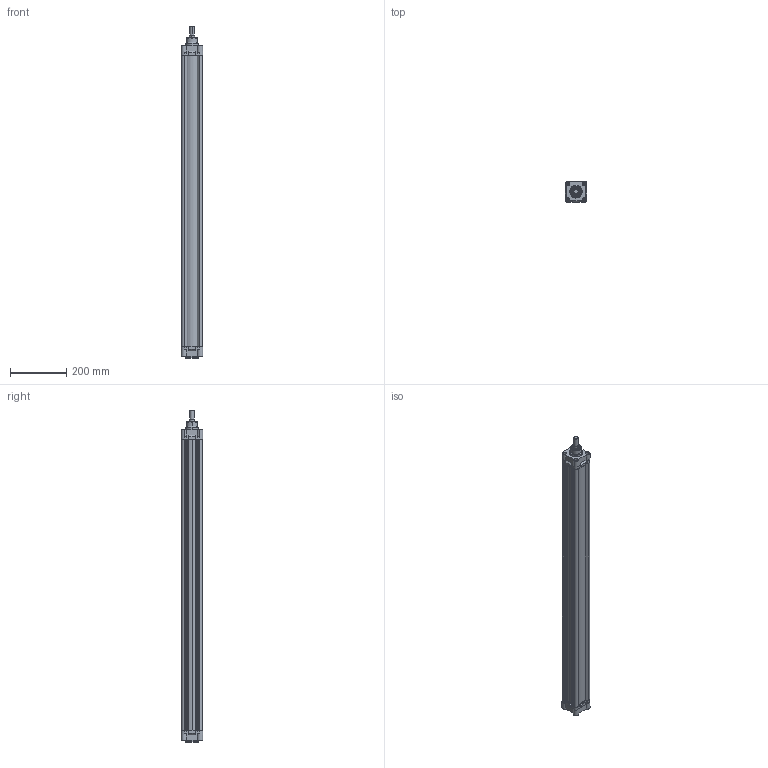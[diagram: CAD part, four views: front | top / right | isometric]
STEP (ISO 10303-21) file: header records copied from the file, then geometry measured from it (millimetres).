
FILE_DESCRIPTION (( 'STEP AP214' ), '1' );
FILE_NAME ('RIC_63_1000_WEB.STEP', '2020-07-18T16:39:28', ( '' ), ( '' ), 'SwSTEP 2.0', 'SolidWorks 2018', '' );
FILE_SCHEMA (( 'AUTOMOTIVE_DESIGN' ));
Length unit declared in the file: millimetre
Products named in the file (7): ric63arkakapak; 20_K_MIL_WEB; ric63yastikkecesi; 63_BORU_WEB; RIC_63_1000_WEB; ric63onkapak; ric63bogazkecesi
Assembly tree (7 placements, depth 2):
  RIC_63_1000_WEB
    63_BORU_WEB
    ric63onkapak
    ric63arkakapak
    ric63bogazkecesi
    ric63yastikkecesi  x2
    20_K_MIL_WEB
Bounding box: 76 x 76 x 1178 mm (x, y, z)
Volume: 2001351.9 mm3; surface area: 762702.9 mm2
Topology: 7 solids, 7 shells, 709 faces, 1751 edges, 1102 vertices
Faces by surface type: plane 280, cylinder 220, torus 134, cone 56, bspline 19
Entity records: 21075 total; most frequent: CARTESIAN_POINT 4906, DIRECTION 3090, ORIENTED_EDGE 2910, EDGE_CURVE 1455, AXIS2_PLACEMENT_3D 1135, VERTEX_POINT 925, VECTOR 820, LINE 820
